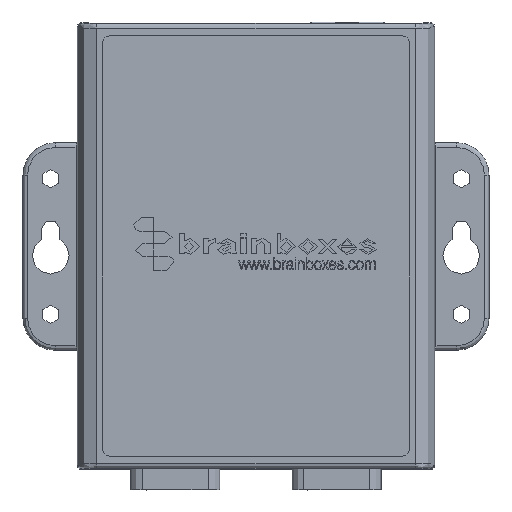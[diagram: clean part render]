
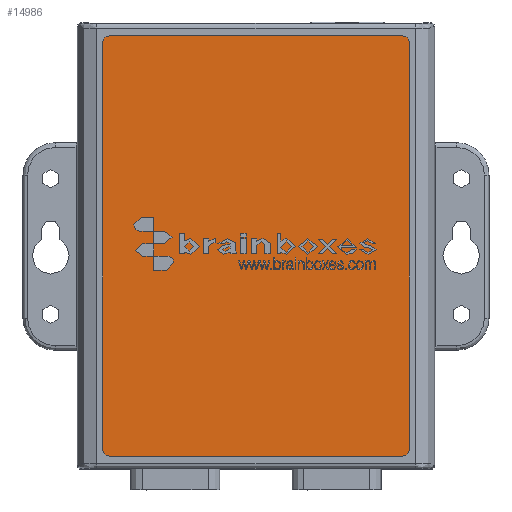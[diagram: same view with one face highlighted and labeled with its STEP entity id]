
A CAD part, top view. The second image highlights one B-rep face of the part: STEP entity #14986.
In plain terms, the highlighted planar face has unit normal (0, 0, 1) as drawn and (0, 1, 0) by its records, which use the part's own axes.
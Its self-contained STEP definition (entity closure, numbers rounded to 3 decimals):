
#14986=ADVANCED_FACE('',(#30265),#30266,.T.);
#30265=FACE_OUTER_BOUND('',#46595,.T.);
#30266=PLANE('',#46596);
#46595=EDGE_LOOP('',(#91874,#91875,#91876,#91877,#91878,#91879,#91880,#91881));
#46596=AXIS2_PLACEMENT_3D('',#91882,#91883,#91884);
#91874=ORIENTED_EDGE('',*,*,#116111,.T.);
#91875=ORIENTED_EDGE('',*,*,#116132,.T.);
#91876=ORIENTED_EDGE('',*,*,#116129,.T.);
#91877=ORIENTED_EDGE('',*,*,#116126,.T.);
#91878=ORIENTED_EDGE('',*,*,#116123,.T.);
#91879=ORIENTED_EDGE('',*,*,#116120,.T.);
#91880=ORIENTED_EDGE('',*,*,#116117,.T.);
#91881=ORIENTED_EDGE('',*,*,#116114,.T.);
#91882=CARTESIAN_POINT('',(-31.75,-0.5,44.05));
#91883=DIRECTION('',(0.0,1.0,0.0));
#91884=DIRECTION('',(1.0,0.0,-0.0));
#116111=EDGE_CURVE('',#143120,#143118,#143121,.T.);
#116114=EDGE_CURVE('',#143124,#143120,#143125,.T.);
#116117=EDGE_CURVE('',#143128,#143124,#143129,.T.);
#116120=EDGE_CURVE('',#143132,#143128,#143133,.T.);
#116123=EDGE_CURVE('',#143136,#143132,#143137,.T.);
#116126=EDGE_CURVE('',#143140,#143136,#143141,.T.);
#116129=EDGE_CURVE('',#143144,#143140,#143145,.T.);
#116132=EDGE_CURVE('',#143118,#143144,#143148,.T.);
#143118=VERTEX_POINT('',#182216);
#143120=VERTEX_POINT('',#182219);
#143121=CIRCLE('',#182220,1.5);
#143124=VERTEX_POINT('',#182224);
#143125=LINE('',#182225,#182226);
#143128=VERTEX_POINT('',#182230);
#143129=CIRCLE('',#182231,1.5);
#143132=VERTEX_POINT('',#182235);
#143133=LINE('',#182236,#182237);
#143136=VERTEX_POINT('',#182241);
#143137=CIRCLE('',#182242,1.5);
#143140=VERTEX_POINT('',#182246);
#143141=LINE('',#182247,#182248);
#143144=VERTEX_POINT('',#182252);
#143145=CIRCLE('',#182253,1.5);
#143148=LINE('',#182257,#182258);
#182216=CARTESIAN_POINT('',(-31.75,-0.5,45.55));
#182219=CARTESIAN_POINT('',(-33.25,-0.5,44.05));
#182220=AXIS2_PLACEMENT_3D('',#206133,#206134,#206135);
#182224=CARTESIAN_POINT('',(-33.25,-0.5,-44.05));
#182225=CARTESIAN_POINT('',(-33.25,-0.5,-44.05));
#182226=VECTOR('',#206137,1.0);
#182230=CARTESIAN_POINT('',(-31.75,-0.5,-45.55));
#182231=AXIS2_PLACEMENT_3D('',#206139,#206140,#206141);
#182235=CARTESIAN_POINT('',(31.75,-0.5,-45.55));
#182236=CARTESIAN_POINT('',(-31.75,-0.5,-45.55));
#182237=VECTOR('',#206143,1.0);
#182241=CARTESIAN_POINT('',(33.25,-0.5,-44.05));
#182242=AXIS2_PLACEMENT_3D('',#206145,#206146,#206147);
#182246=CARTESIAN_POINT('',(33.25,-0.5,44.05));
#182247=CARTESIAN_POINT('',(33.25,-0.5,-44.05));
#182248=VECTOR('',#206149,1.0);
#182252=CARTESIAN_POINT('',(31.75,-0.5,45.55));
#182253=AXIS2_PLACEMENT_3D('',#206151,#206152,#206153);
#182257=CARTESIAN_POINT('',(-31.75,-0.5,45.55));
#182258=VECTOR('',#206155,1.0);
#206133=CARTESIAN_POINT('',(-31.75,-0.5,44.05));
#206134=DIRECTION('',(0.0,1.0,0.0));
#206135=DIRECTION('',(0.0,-0.0,1.0));
#206137=DIRECTION('',(0.,0.0,1.0));
#206139=CARTESIAN_POINT('',(-31.75,-0.5,-44.05));
#206140=DIRECTION('',(0.0,1.0,0.0));
#206141=DIRECTION('',(0.0,0.0,-1.0));
#206143=DIRECTION('',(-1.0,0.0,0.0));
#206145=CARTESIAN_POINT('',(31.75,-0.5,-44.05));
#206146=DIRECTION('',(0.0,1.0,0.0));
#206147=DIRECTION('',(0.0,-0.0,1.0));
#206149=DIRECTION('',(0.,0.0,-1.0));
#206151=CARTESIAN_POINT('',(31.75,-0.5,44.05));
#206152=DIRECTION('',(0.0,1.0,0.0));
#206153=DIRECTION('',(0.0,-0.0,1.0));
#206155=DIRECTION('',(1.0,0.0,0.0));
